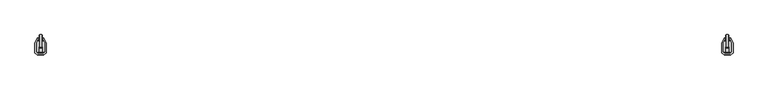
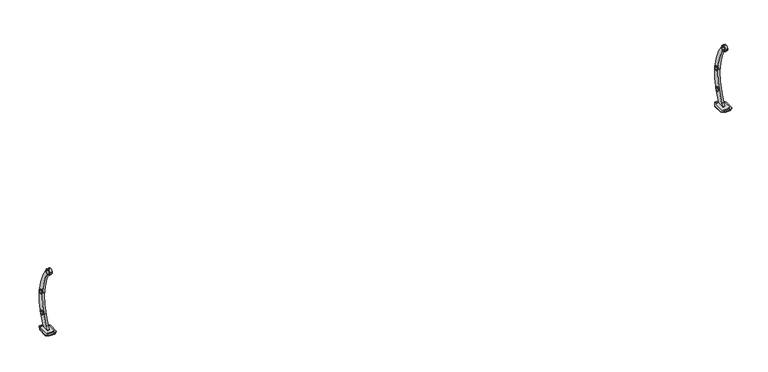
"""IFC4 building model written with IfcOpenShell, lengths in millimetres: railing geometry, Valla Luna-VVL02-1000mm."""

from ifc_helpers import new_model, si_unit, point, frame, frame_2d, origin, place, context, project, spatial, polyline, circle_curve, ellipse_curve, trimmed, segment, composite_curve, outline, extrude, source, transform, mapped, element, save
from ifc_brep_helpers import plane_surface, cylinder_surface, advanced_brep


def railing_3021f9ca(model_context):
    return source(origin(), model_context, "Body", "SolidModel", [
        advanced_brep(
        [(37.8257176, -59.8778291, 14.203599), (37.8257176, 76.8213068, 14.203599), (37.8257176, 76.8213068, 20.5949777), (37.8257176, -59.8778291, 20.5949777), (-78.1742824, -59.8778291, 20.5949777), (-78.1742824, 76.8213068, 20.5949777), (-78.1742824, 76.8213068, 14.203599), (-78.1742824, -59.8778291, 14.203599), (19.6479857, -75.1307572, 16.3372695), (-59.9965506, -75.1307572, 16.3372695), (-59.9965506, -75.1307572, 14.203599), (19.6479857, -75.1307572, 14.203599), (-58.4734613, 112.362529, 14.203599), (18.1248964, 112.362529, 14.203599), (-58.4734613, 112.362529, 16.3372695), (18.1248964, 112.362529, 16.3372695), (-60.8335475, 108.1048208, 20.5949777), (20.4849826, 108.1048208, 20.5949777), (-65.0706896, -70.873049, 20.5949777), (24.7221248, -70.873049, 20.5949777)],
        [
            (0, 1),
            (1, 2),
            (2, 3),
            (3, 0),
            (4, 5),
            (5, 6),
            (6, 7),
            (7, 4),
            (8, 9),
            (9, 10),
            (10, 11),
            (11, 8),
            (0, 11),
            (10, 7),
            (6, 12),
            (12, 13),
            (13, 1),
            (12, 14),
            (14, 15),
            (15, 13),
            (14, 16, ellipse_curve(frame((-60.8335475, 108.1048208, 16.3372695), z_axis=(0.874619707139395, -0.4848096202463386, 0.0), x_axis=(0.4848096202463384, 0.8746197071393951, 0.0)), 4.868068, 4.2577082)),
            (16, 17),
            (17, 15, ellipse_curve(frame((20.4849826, 108.1048208, 16.3372695), z_axis=(-0.8746197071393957, -0.4848096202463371, 0.0), x_axis=(0.4848096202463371, -0.8746197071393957, 0.0)), 4.868068, 4.2577082)),
            (2, 17),
            (16, 5),
            (4, 18),
            (18, 19),
            (19, 3),
            (8, 19, ellipse_curve(frame((24.7221248, -70.873049, 16.3372695), z_axis=(-0.6427876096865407, 0.766044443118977, 0.0), x_axis=(0.7660444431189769, 0.6427876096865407, 0.0)), 6.6238181, 4.2577082)),
            (18, 9, ellipse_curve(frame((-65.0706896, -70.873049, 16.3372695), z_axis=(0.6427876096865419, 0.7660444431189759, 0.0), x_axis=(0.7660444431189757, -0.6427876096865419, 0.0)), 6.6238181, 4.2577082)),
        ],
        [
            plane_surface(frame((37.8257176, -75.1307572, 14.203599), z_axis=(1.0, 0.0, 0.0), x_axis=(0.0, 0.0, -1.0))),
            plane_surface(frame((-78.1742824, -75.1307572, 14.203599), z_axis=(-1.0, 0.0, 0.0), x_axis=(0.0, 0.0, 1.0))),
            plane_surface(frame((37.8257176, -75.1307572, 16.3372695), z_axis=(0.0, -1.0, 0.0), x_axis=(-1.0, 0.0, 0.0))),
            plane_surface(frame((37.8257176, -75.1307572, 14.203599), z_axis=(0.0, 0.0, -1.0), x_axis=(-1.0, 0.0, 0.0))),
            plane_surface(frame((37.8257176, 112.362529, 14.203599), z_axis=(0.0, 1.0, 0.0), x_axis=(-1.0, 0.0, 0.0))),
            cylinder_surface(frame((-78.1742824, 108.1048208, 16.3372695), z_axis=(1.0, 0.0, 0.0), x_axis=(0.0, 1.0, 0.0)), 4.2577082),
            plane_surface(frame((37.8257176, 108.1048208, 20.5949777), z_axis=(0.0, 0.0, 1.0), x_axis=(-1.0, 0.0, 0.0))),
            cylinder_surface(frame((-78.1742824, -70.873049, 16.3372695), z_axis=(1.0, 0.0, 0.0), x_axis=(0.0, 1.0, 0.0)), 4.2577082),
            plane_surface(frame((-78.1742824, 76.8213068, 26.9863564), z_axis=(-0.874619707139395, 0.4848096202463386, 0.0), x_axis=(0.0, 0.0, -1.0))),
            plane_surface(frame((18.1248964, 112.362529, 26.9863564), z_axis=(0.8746197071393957, 0.4848096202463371, 0.0), x_axis=(0.0, 0.0, -1.0))),
            plane_surface(frame((37.8257176, -59.8778291, 26.9863564), z_axis=(0.6427876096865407, -0.766044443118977, 0.0), x_axis=(0.0, 0.0, -1.0))),
            plane_surface(frame((-59.9965506, -75.1307572, 26.9863564), z_axis=(-0.6427876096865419, -0.7660444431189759, 0.0), x_axis=(0.0, 0.0, -1.0))),
        ],
        [
            (0, [[1, 2, 3, 4]]),
            (1, [[5, 6, 7, 8]]),
            (2, [[9, 10, 11, 12]]),
            (3, [[-1, 13, -11, 14, -7, 15, 16, 17]]),
            (4, [[-16, 18, 19, 20]]),
            (5, [[-19, 21, 22, 23]]),
            (6, [[-3, 24, -22, 25, -5, 26, 27, 28]]),
            (7, [[-9, 29, -27, 30]]),
            (8, [[-6, -25, -21, -18, -15]]),
            (9, [[-2, -17, -20, -23, -24]]),
            (10, [[-4, -28, -29, -12, -13]]),
            (11, [[-8, -14, -10, -30, -26]]),
        ],
    ),
        advanced_brep(
        [(61.8257176, 73.6162264, 14.203599), (61.8257176, -73.8212018, 14.203599), (61.8257176, -73.8212018, 0.0), (61.8257176, 73.6162264, 0.0), (-102.1742824, 73.6162264, 0.0), (-102.1742824, -73.8212018, 0.0), (-102.1742824, -73.8212018, 14.203599), (-102.1742824, 73.6162264, 14.203599), (23.024084, 143.6162264, 0.0), (-63.3726488, 143.6162264, 0.0), (-63.3726488, 143.6162264, 9.9410744), (23.024084, 143.6162264, 9.9410744), (-65.7354048, 139.3537018, 14.203599), (25.3868399, 139.3537018, 14.203599), (-68.4525278, -102.1171136, 14.203599), (28.103963, -102.1171136, 14.203599), (-63.3726488, -106.3796382, 9.9410744), (23.024084, -106.3796382, 9.9410744), (-63.3726488, -106.3796382, 0.0), (23.024084, -106.3796382, 0.0)],
        [
            (0, 1),
            (1, 2),
            (2, 3),
            (3, 0),
            (4, 5),
            (5, 6),
            (6, 7),
            (7, 4),
            (8, 9),
            (9, 10),
            (10, 11),
            (11, 8),
            (10, 12, ellipse_curve(frame((-65.7354048, 139.3537018, 9.9410744), z_axis=(0.874619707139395, -0.4848096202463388, 0.0), x_axis=(0.4848096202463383, 0.8746197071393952, 0.0)), 4.8735749, 4.2625246)),
            (12, 13),
            (13, 11, ellipse_curve(frame((25.3868399, 139.3537018, 9.9410744), z_axis=(-0.8746197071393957, -0.4848096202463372, 0.0), x_axis=(0.4848096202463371, -0.8746197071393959, 0.0)), 4.8735749, 4.2625246)),
            (0, 13),
            (12, 7),
            (6, 14),
            (14, 15),
            (15, 1),
            (14, 16, ellipse_curve(frame((-68.4525278, -102.1171136, 9.9410744), z_axis=(0.6427876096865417, 0.766044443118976, 0.0), x_axis=(0.766044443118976, -0.6427876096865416, 0.0)), 6.6313111, 4.2625246)),
            (16, 17),
            (17, 15, ellipse_curve(frame((28.103963, -102.1171136, 9.9410744), z_axis=(-0.6427876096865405, 0.7660444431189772, 0.0), x_axis=(0.766044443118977, 0.6427876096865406, 0.0)), 6.6313111, 4.2625246)),
            (16, 18),
            (18, 19),
            (19, 17),
            (2, 19),
            (18, 5),
            (4, 9),
            (8, 3),
        ],
        [
            plane_surface(frame((61.8257176, 143.6162264, 9.9410744), z_axis=(1.0, 0.0, 0.0), x_axis=(0.0, 0.0, 1.0))),
            plane_surface(frame((-102.1742824, 143.6162264, 9.9410744), z_axis=(-1.0, 0.0, 0.0), x_axis=(0.0, 0.0, -1.0))),
            plane_surface(frame((61.8257176, 143.6162264, 0.0), z_axis=(0.0, 1.0, 0.0), x_axis=(-1.0, 0.0, 0.0))),
            cylinder_surface(frame((-102.1742824, 139.3537018, 9.9410744), z_axis=(1.0, 0.0, 0.0), x_axis=(0.0, 1.0, 0.0)), 4.2625246),
            plane_surface(frame((61.8257176, 139.3537018, 14.203599), z_axis=(0.0, 0.0, 1.0), x_axis=(-1.0, 0.0, 0.0))),
            cylinder_surface(frame((-102.1742824, -102.1171136, 9.9410744), z_axis=(1.0, 0.0, 0.0), x_axis=(0.0, 1.0, 0.0)), 4.2625246),
            plane_surface(frame((61.8257176, -106.3796382, 9.9410744), z_axis=(0.0, -1.0, 0.0), x_axis=(-1.0, 0.0, 0.0))),
            plane_surface(frame((61.8257176, -106.3796382, 0.0), z_axis=(0.0, 0.0, -1.0), x_axis=(-1.0, 0.0, 0.0))),
            plane_surface(frame((-102.1742824, 73.6162264, 56.1063833), z_axis=(-0.874619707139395, 0.4848096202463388, 0.0), x_axis=(0.0, 0.0, -1.0))),
            plane_surface(frame((23.024084, 143.6162264, 56.1063833), z_axis=(0.8746197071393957, 0.4848096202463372, 0.0), x_axis=(0.0, 0.0, -1.0))),
            plane_surface(frame((-63.3726488, -106.3796382, 56.1063833), z_axis=(-0.6427876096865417, -0.766044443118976, 0.0), x_axis=(0.0, 0.0, -1.0))),
            plane_surface(frame((61.8257176, -73.8212018, 56.1063833), z_axis=(0.6427876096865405, -0.7660444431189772, 0.0), x_axis=(0.0, 0.0, -1.0))),
        ],
        [
            (0, [[1, 2, 3, 4]]),
            (1, [[5, 6, 7, 8]]),
            (2, [[9, 10, 11, 12]]),
            (3, [[-11, 13, 14, 15]]),
            (4, [[-1, 16, -14, 17, -7, 18, 19, 20]]),
            (5, [[-19, 21, 22, 23]]),
            (6, [[-22, 24, 25, 26]]),
            (7, [[-3, 27, -25, 28, -5, 29, -9, 30]]),
            (8, [[-8, -17, -13, -10, -29]]),
            (9, [[-4, -30, -12, -15, -16]]),
            (10, [[-6, -28, -24, -21, -18]]),
            (11, [[-2, -20, -23, -26, -27]]),
        ],
    ),
        extrude(outline(composite_curve([segment(trimmed(circle_curve(frame_2d((-32.5175521, 952.3924915)), 42.6132051), [point((-75.1307572, 952.3924915))], [point((10.0956531, 952.3924915))], False, "CARTESIAN"), True, "CONTINUOUS"), segment(trimmed(circle_curve(frame_2d((-32.5175521, 952.3924915)), 42.6132051), [point((10.0956531, 952.3924915))], [point((-75.1307572, 952.3924915))], False, "CARTESIAN"), True, "CONTINUOUS")], self_intersect=False), holes=[composite_curve([segment(trimmed(circle_curve(frame_2d((-32.5175521, 952.3924915)), 28.4096062), [point((-60.9271582, 952.3924915))], [point((-4.1079459, 952.3924915))], True, "CARTESIAN"), True, "CONTINUOUS"), segment(trimmed(circle_curve(frame_2d((-32.5175521, 952.3924915)), 28.4096062), [point((-4.1079459, 952.3924915))], [point((-60.9271582, 952.3924915))], True, "CARTESIAN"), True, "CONTINUOUS")], self_intersect=False)]), frame((-41.7542824, 0.0, 0.0), z_axis=(1.0, 0.0, 0.0), x_axis=(0.0, 1.0, 0.0)), (0.0, 0.0, 1.0), 43.16),
        extrude(outline(composite_curve([segment(trimmed(circle_curve(frame_2d((-35.2003219, 907.5222066)), 2.3654817), [point((-35.415134, 909.8779144))], [point((-37.4829394, 908.1428196))], True, "CARTESIAN"), True, "CONTINUOUS"), segment(polyline([(-37.4829394, 908.1428196), (-38.2257606, 905.4107199)]), True, "CONTINUOUS"), segment(trimmed(circle_curve(frame_2d((-40.4091972, 906.4191341)), 2.4050561), [point((-38.2257606, 905.4107199))], [point((-41.0401931, 904.0983285))], False, "CARTESIAN"), True, "CONTINUOUS"), segment(polyline([(-41.0401931, 904.0983285), (-48.8524133, 906.2223662)]), True, "CONTINUOUS"), segment(trimmed(circle_curve(frame_2d((-48.2214175, 908.5431718)), 2.4050561), [point((-48.8524133, 906.2223662))], [point((-50.6148686, 908.7791518))], False, "CARTESIAN"), True, "CONTINUOUS"), segment(polyline([(-50.6148686, 908.7791518), (-49.8720473, 911.5112516)]), True, "CONTINUOUS"), segment(trimmed(circle_curve(frame_2d((-52.1546649, 912.1318646)), 2.3654817), [point((-49.8720473, 911.5112516))], [point((-50.3918957, 913.7092511))], True, "CARTESIAN"), True, "CONTINUOUS"), segment(trimmed(circle_curve(frame_2d((-32.5175521, 952.3924915)), 42.6132051), [point((-50.3918957, 913.7092511))], [point((-35.415134, 909.8779144))], True, "CARTESIAN"), True, "CONTINUOUS")], self_intersect=False)), frame((-26.3942824, 0.0, 0.0), z_axis=(1.0, 0.0, 0.0), x_axis=(0.0, 1.0, 0.0)), (0.0, 0.0, 1.0), 12.4397),
        extrude(outline(composite_curve([segment(trimmed(circle_curve(frame_2d((151.7824529, 535.4983185)), 33.0237288), [point((118.7587241, 535.4983185))], [point((184.8061818, 535.4983185))], False, "CARTESIAN"), True, "CONTINUOUS"), segment(trimmed(circle_curve(frame_2d((151.7824529, 535.4983185)), 33.0237288), [point((184.8061818, 535.4983185))], [point((118.7587241, 535.4983185))], False, "CARTESIAN"), True, "CONTINUOUS")], self_intersect=False), holes=[composite_curve([segment(trimmed(circle_curve(frame_2d((151.7824529, 535.4983185)), 18.8201299), [point((132.9623231, 535.4983185))], [point((170.6025828, 535.4983185))], True, "CARTESIAN"), True, "CONTINUOUS"), segment(trimmed(circle_curve(frame_2d((151.7824529, 535.4983185)), 18.8201299), [point((170.6025828, 535.4983185))], [point((132.9623231, 535.4983185))], True, "CARTESIAN"), True, "CONTINUOUS")], self_intersect=False)]), frame((-41.7542824, 0.0, 0.0), z_axis=(1.0, 0.0, 0.0), x_axis=(0.0, 1.0, 0.0)), (0.0, 0.0, 1.0), 43.16),
        extrude(outline(composite_curve([segment(trimmed(circle_curve(frame_2d((124.7936883, 223.0046918)), 33.0237288), [point((91.7699595, 223.0046918))], [point((157.8174172, 223.0046918))], False, "CARTESIAN"), True, "CONTINUOUS"), segment(trimmed(circle_curve(frame_2d((124.7936883, 223.0046918)), 33.0237288), [point((157.8174172, 223.0046918))], [point((91.7699595, 223.0046918))], False, "CARTESIAN"), True, "CONTINUOUS")], self_intersect=False), holes=[composite_curve([segment(trimmed(circle_curve(frame_2d((124.7936883, 223.0046918)), 18.8201299), [point((105.9735585, 223.0046918))], [point((143.6138182, 223.0046918))], True, "CARTESIAN"), True, "CONTINUOUS"), segment(trimmed(circle_curve(frame_2d((124.7936883, 223.0046918)), 18.8201299), [point((143.6138182, 223.0046918))], [point((105.9735585, 223.0046918))], True, "CARTESIAN"), True, "CONTINUOUS")], self_intersect=False)]), frame((-41.7542824, 0.0, 0.0), z_axis=(1.0, 0.0, 0.0), x_axis=(0.0, 1.0, 0.0)), (0.0, 0.0, 1.0), 43.16),
        extrude(outline(composite_curve([segment(trimmed(circle_curve(frame_2d((-32.5175521, 951.7927114)), 42.6132051), [point((-19.2244118, 911.3059521))], [point((0.6146997, 978.5908296))], False, "CARTESIAN"), True, "CONTINUOUS"), segment(trimmed(circle_curve(frame_2d((-669.8242293, 431.6687279)), 865.2237531), [point((0.6146997, 978.5908296))], [point((94.6092344, 26.3865762))], False, "CARTESIAN"), True, "CONTINUOUS"), segment(trimmed(circle_curve(frame_2d((99.8588247, 25.1220185)), 5.3997504), [point((94.6092344, 26.3865762))], [point((98.1493714, 20.0))], True, "CARTESIAN"), True, "CONTINUOUS"), segment(polyline([(98.1493714, 20.0), (-18.2389933, 20.0)]), True, "CONTINUOUS"), segment(trimmed(circle_curve(frame_2d((-18.9534231, 30.8838265)), 10.9072494), [point((-18.2389933, 20.0))], [point((-9.7913121, 24.9657347))], True, "CARTESIAN"), True, "CONTINUOUS"), segment(trimmed(circle_curve(frame_2d((-548.3550434, 372.840762)), 641.1457926), [point((-9.7913121, 24.9657347))], [point((15.0710067, 66.868519))], True, "CARTESIAN"), True, "CONTINUOUS"), segment(trimmed(circle_curve(frame_2d((-721.6327305, 466.940356)), 838.3256355), [point((15.0710067, 66.868519))], [point((-7.3307436, 905.7598436))], True, "CARTESIAN"), True, "CONTINUOUS"), segment(trimmed(circle_curve(frame_2d((-16.9904255, 900.5706701)), 10.9652622), [point((-7.3307436, 905.7598436))], [point((-19.2244118, 911.3059521))], True, "CARTESIAN"), True, "CONTINUOUS")], self_intersect=False), holes=[composite_curve([segment(trimmed(circle_curve(frame_2d((-32.5175521, 951.7927114)), 28.4096062), [point((-60.9271582, 951.7927114))], [point((-4.1079459, 951.7927114))], True, "CARTESIAN"), True, "CONTINUOUS"), segment(trimmed(circle_curve(frame_2d((-32.5175521, 951.7927114)), 28.4096062), [point((-4.1079459, 951.7927114))], [point((-60.9271582, 951.7927114))], True, "CARTESIAN"), True, "CONTINUOUS")], self_intersect=False), composite_curve([segment(trimmed(circle_curve(frame_2d((151.7824529, 534.8985383)), 18.8201299), [point((132.9623231, 534.8985383))], [point((170.6025828, 534.8985383))], True, "CARTESIAN"), True, "CONTINUOUS"), segment(trimmed(circle_curve(frame_2d((151.7824529, 534.8985383)), 18.8201299), [point((170.6025828, 534.8985383))], [point((132.9623231, 534.8985383))], True, "CARTESIAN"), True, "CONTINUOUS")], self_intersect=False), composite_curve([segment(trimmed(circle_curve(frame_2d((124.7936883, 222.4049116)), 18.8201299), [point((105.9735585, 222.4049116))], [point((143.6138182, 222.4049116))], True, "CARTESIAN"), True, "CONTINUOUS"), segment(trimmed(circle_curve(frame_2d((124.7936883, 222.4049116)), 18.8201299), [point((143.6138182, 222.4049116))], [point((105.9735585, 222.4049116))], True, "CARTESIAN"), True, "CONTINUOUS")], self_intersect=False)]), frame((-35.1742824, 0.0, 0.0), z_axis=(1.0, 0.0, 0.0), x_axis=(0.0, 1.0, 0.0)), (0.0, 0.0, 1.0), 30.0),
        advanced_brep(
        [(-9962.1742824, -59.8778291, 14.203599), (-9962.1742824, 76.8213068, 14.203599), (-9962.1742824, 76.8213068, 20.5949777), (-9962.1742824, -59.8778291, 20.5949777), (-10078.1742824, -59.8778291, 20.5949777), (-10078.1742824, 76.8213068, 20.5949777), (-10078.1742824, 76.8213068, 14.203599), (-10078.1742824, -59.8778291, 14.203599), (-9980.3520143, -75.1307572, 16.3372695), (-10059.9965506, -75.1307572, 16.3372695), (-10059.9965506, -75.1307572, 14.203599), (-9980.3520143, -75.1307572, 14.203599), (-10058.4734613, 112.362529, 14.203599), (-9981.8751036, 112.362529, 14.203599), (-10058.4734613, 112.362529, 16.3372695), (-9981.8751036, 112.362529, 16.3372695), (-10060.8335475, 108.1048208, 20.5949777), (-9979.5150174, 108.1048208, 20.5949777), (-10065.0706896, -70.873049, 20.5949777), (-9975.2778752, -70.873049, 20.5949777)],
        [
            (0, 1),
            (1, 2),
            (2, 3),
            (3, 0),
            (4, 5),
            (5, 6),
            (6, 7),
            (7, 4),
            (8, 9),
            (9, 10),
            (10, 11),
            (11, 8),
            (0, 11),
            (10, 7),
            (6, 12),
            (12, 13),
            (13, 1),
            (12, 14),
            (14, 15),
            (15, 13),
            (14, 16, ellipse_curve(frame((-10060.8335475, 108.1048208, 16.3372695), z_axis=(0.874619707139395, -0.4848096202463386, 0.0), x_axis=(0.4848096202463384, 0.8746197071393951, 0.0)), 4.868068, 4.2577082)),
            (16, 17),
            (17, 15, ellipse_curve(frame((-9979.5150174, 108.1048208, 16.3372695), z_axis=(-0.8746197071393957, -0.4848096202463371, 0.0), x_axis=(0.4848096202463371, -0.8746197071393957, 0.0)), 4.868068, 4.2577082)),
            (2, 17),
            (16, 5),
            (4, 18),
            (18, 19),
            (19, 3),
            (8, 19, ellipse_curve(frame((-9975.2778752, -70.873049, 16.3372695), z_axis=(-0.6427876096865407, 0.766044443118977, 0.0), x_axis=(0.7660444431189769, 0.6427876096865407, 0.0)), 6.6238181, 4.2577082)),
            (18, 9, ellipse_curve(frame((-10065.0706896, -70.873049, 16.3372695), z_axis=(0.6427876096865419, 0.7660444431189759, 0.0), x_axis=(0.7660444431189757, -0.6427876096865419, 0.0)), 6.6238181, 4.2577082)),
        ],
        [
            plane_surface(frame((-9962.1742824, -75.1307572, 14.203599), z_axis=(1.0, 0.0, 0.0), x_axis=(0.0, 0.0, -1.0))),
            plane_surface(frame((-10078.1742824, -75.1307572, 14.203599), z_axis=(-1.0, 0.0, 0.0), x_axis=(0.0, 0.0, 1.0))),
            plane_surface(frame((-9962.1742824, -75.1307572, 16.3372695), z_axis=(0.0, -1.0, 0.0), x_axis=(-1.0, 0.0, 0.0))),
            plane_surface(frame((-9962.1742824, -75.1307572, 14.203599), z_axis=(0.0, 0.0, -1.0), x_axis=(-1.0, 0.0, 0.0))),
            plane_surface(frame((-9962.1742824, 112.362529, 14.203599), z_axis=(0.0, 1.0, 0.0), x_axis=(-1.0, 0.0, 0.0))),
            cylinder_surface(frame((-10078.1742824, 108.1048208, 16.3372695), z_axis=(1.0, 0.0, 0.0), x_axis=(0.0, 1.0, 0.0)), 4.2577082),
            plane_surface(frame((-9962.1742824, 108.1048208, 20.5949777), z_axis=(0.0, 0.0, 1.0), x_axis=(-1.0, 0.0, 0.0))),
            cylinder_surface(frame((-10078.1742824, -70.873049, 16.3372695), z_axis=(1.0, 0.0, 0.0), x_axis=(0.0, 1.0, 0.0)), 4.2577082),
            plane_surface(frame((-10078.1742824, 76.8213068, 26.9863564), z_axis=(-0.874619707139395, 0.4848096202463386, 0.0), x_axis=(0.0, 0.0, -1.0))),
            plane_surface(frame((-9981.8751036, 112.362529, 26.9863564), z_axis=(0.8746197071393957, 0.4848096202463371, 0.0), x_axis=(0.0, 0.0, -1.0))),
            plane_surface(frame((-9962.1742824, -59.8778291, 26.9863564), z_axis=(0.6427876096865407, -0.766044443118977, 0.0), x_axis=(0.0, 0.0, -1.0))),
            plane_surface(frame((-10059.9965506, -75.1307572, 26.9863564), z_axis=(-0.6427876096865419, -0.7660444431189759, 0.0), x_axis=(0.0, 0.0, -1.0))),
        ],
        [
            (0, [[1, 2, 3, 4]]),
            (1, [[5, 6, 7, 8]]),
            (2, [[9, 10, 11, 12]]),
            (3, [[-1, 13, -11, 14, -7, 15, 16, 17]]),
            (4, [[-16, 18, 19, 20]]),
            (5, [[-19, 21, 22, 23]]),
            (6, [[-3, 24, -22, 25, -5, 26, 27, 28]]),
            (7, [[-9, 29, -27, 30]]),
            (8, [[-6, -25, -21, -18, -15]]),
            (9, [[-2, -17, -20, -23, -24]]),
            (10, [[-4, -28, -29, -12, -13]]),
            (11, [[-8, -14, -10, -30, -26]]),
        ],
    ),
        advanced_brep(
        [(-9938.1742824, 73.6162264, 14.203599), (-9938.1742824, -73.8212018, 14.203599), (-9938.1742824, -73.8212018, 0.0), (-9938.1742824, 73.6162264, 0.0), (-10102.1742824, 73.6162264, 0.0), (-10102.1742824, -73.8212018, 0.0), (-10102.1742824, -73.8212018, 14.203599), (-10102.1742824, 73.6162264, 14.203599), (-9976.975916, 143.6162264, 0.0), (-10063.3726488, 143.6162264, 0.0), (-10063.3726488, 143.6162264, 9.9410744), (-9976.975916, 143.6162264, 9.9410744), (-10065.7354048, 139.3537018, 14.203599), (-9974.6131601, 139.3537018, 14.203599), (-10068.4525278, -102.1171136, 14.203599), (-9971.896037, -102.1171136, 14.203599), (-10063.3726488, -106.3796382, 9.9410744), (-9976.975916, -106.3796382, 9.9410744), (-10063.3726488, -106.3796382, 0.0), (-9976.975916, -106.3796382, 0.0)],
        [
            (0, 1),
            (1, 2),
            (2, 3),
            (3, 0),
            (4, 5),
            (5, 6),
            (6, 7),
            (7, 4),
            (8, 9),
            (9, 10),
            (10, 11),
            (11, 8),
            (10, 12, ellipse_curve(frame((-10065.7354048, 139.3537018, 9.9410744), z_axis=(0.874619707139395, -0.4848096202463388, 0.0), x_axis=(0.4848096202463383, 0.8746197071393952, 0.0)), 4.8735749, 4.2625246)),
            (12, 13),
            (13, 11, ellipse_curve(frame((-9974.6131601, 139.3537018, 9.9410744), z_axis=(-0.8746197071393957, -0.4848096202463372, 0.0), x_axis=(0.4848096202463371, -0.8746197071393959, 0.0)), 4.8735749, 4.2625246)),
            (0, 13),
            (12, 7),
            (6, 14),
            (14, 15),
            (15, 1),
            (14, 16, ellipse_curve(frame((-10068.4525278, -102.1171136, 9.9410744), z_axis=(0.6427876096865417, 0.766044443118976, 0.0), x_axis=(0.766044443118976, -0.6427876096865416, 0.0)), 6.6313111, 4.2625246)),
            (16, 17),
            (17, 15, ellipse_curve(frame((-9971.896037, -102.1171136, 9.9410744), z_axis=(-0.6427876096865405, 0.7660444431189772, 0.0), x_axis=(0.766044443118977, 0.6427876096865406, 0.0)), 6.6313111, 4.2625246)),
            (16, 18),
            (18, 19),
            (19, 17),
            (2, 19),
            (18, 5),
            (4, 9),
            (8, 3),
        ],
        [
            plane_surface(frame((-9938.1742824, 143.6162264, 9.9410744), z_axis=(1.0, 0.0, 0.0), x_axis=(0.0, 0.0, 1.0))),
            plane_surface(frame((-10102.1742824, 143.6162264, 9.9410744), z_axis=(-1.0, 0.0, 0.0), x_axis=(0.0, 0.0, -1.0))),
            plane_surface(frame((-9938.1742824, 143.6162264, 0.0), z_axis=(0.0, 1.0, 0.0), x_axis=(-1.0, 0.0, 0.0))),
            cylinder_surface(frame((-10102.1742824, 139.3537018, 9.9410744), z_axis=(1.0, 0.0, 0.0), x_axis=(0.0, 1.0, 0.0)), 4.2625246),
            plane_surface(frame((-9938.1742824, 139.3537018, 14.203599), z_axis=(0.0, 0.0, 1.0), x_axis=(-1.0, 0.0, 0.0))),
            cylinder_surface(frame((-10102.1742824, -102.1171136, 9.9410744), z_axis=(1.0, 0.0, 0.0), x_axis=(0.0, 1.0, 0.0)), 4.2625246),
            plane_surface(frame((-9938.1742824, -106.3796382, 9.9410744), z_axis=(0.0, -1.0, 0.0), x_axis=(-1.0, 0.0, 0.0))),
            plane_surface(frame((-9938.1742824, -106.3796382, 0.0), z_axis=(0.0, 0.0, -1.0), x_axis=(-1.0, 0.0, 0.0))),
            plane_surface(frame((-10102.1742824, 73.6162264, 56.1063833), z_axis=(-0.874619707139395, 0.4848096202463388, 0.0), x_axis=(0.0, 0.0, -1.0))),
            plane_surface(frame((-9976.975916, 143.6162264, 56.1063833), z_axis=(0.8746197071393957, 0.4848096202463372, 0.0), x_axis=(0.0, 0.0, -1.0))),
            plane_surface(frame((-10063.3726488, -106.3796382, 56.1063833), z_axis=(-0.6427876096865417, -0.766044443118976, 0.0), x_axis=(0.0, 0.0, -1.0))),
            plane_surface(frame((-9938.1742824, -73.8212018, 56.1063833), z_axis=(0.6427876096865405, -0.7660444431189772, 0.0), x_axis=(0.0, 0.0, -1.0))),
        ],
        [
            (0, [[1, 2, 3, 4]]),
            (1, [[5, 6, 7, 8]]),
            (2, [[9, 10, 11, 12]]),
            (3, [[-11, 13, 14, 15]]),
            (4, [[-1, 16, -14, 17, -7, 18, 19, 20]]),
            (5, [[-19, 21, 22, 23]]),
            (6, [[-22, 24, 25, 26]]),
            (7, [[-3, 27, -25, 28, -5, 29, -9, 30]]),
            (8, [[-8, -17, -13, -10, -29]]),
            (9, [[-4, -30, -12, -15, -16]]),
            (10, [[-6, -28, -24, -21, -18]]),
            (11, [[-2, -20, -23, -26, -27]]),
        ],
    ),
        extrude(outline(composite_curve([segment(trimmed(circle_curve(frame_2d((-32.5175521, 952.3924915)), 42.6132051), [point((-75.1307572, 952.3924915))], [point((10.0956531, 952.3924915))], False, "CARTESIAN"), True, "CONTINUOUS"), segment(trimmed(circle_curve(frame_2d((-32.5175521, 952.3924915)), 42.6132051), [point((10.0956531, 952.3924915))], [point((-75.1307572, 952.3924915))], False, "CARTESIAN"), True, "CONTINUOUS")], self_intersect=False), holes=[composite_curve([segment(trimmed(circle_curve(frame_2d((-32.5175521, 952.3924915)), 28.4096062), [point((-60.9271582, 952.3924915))], [point((-4.1079459, 952.3924915))], True, "CARTESIAN"), True, "CONTINUOUS"), segment(trimmed(circle_curve(frame_2d((-32.5175521, 952.3924915)), 28.4096062), [point((-4.1079459, 952.3924915))], [point((-60.9271582, 952.3924915))], True, "CARTESIAN"), True, "CONTINUOUS")], self_intersect=False)]), frame((-10041.7542824, 0.0, 0.0), z_axis=(1.0, 0.0, 0.0), x_axis=(0.0, 1.0, 0.0)), (0.0, 0.0, 1.0), 43.16),
        extrude(outline(composite_curve([segment(trimmed(circle_curve(frame_2d((-35.2003219, 907.5222066)), 2.3654817), [point((-35.415134, 909.8779144))], [point((-37.4829394, 908.1428196))], True, "CARTESIAN"), True, "CONTINUOUS"), segment(polyline([(-37.4829394, 908.1428196), (-38.2257606, 905.4107199)]), True, "CONTINUOUS"), segment(trimmed(circle_curve(frame_2d((-40.4091972, 906.4191341)), 2.4050561), [point((-38.2257606, 905.4107199))], [point((-41.0401931, 904.0983285))], False, "CARTESIAN"), True, "CONTINUOUS"), segment(polyline([(-41.0401931, 904.0983285), (-48.8524133, 906.2223662)]), True, "CONTINUOUS"), segment(trimmed(circle_curve(frame_2d((-48.2214175, 908.5431718)), 2.4050561), [point((-48.8524133, 906.2223662))], [point((-50.6148686, 908.7791518))], False, "CARTESIAN"), True, "CONTINUOUS"), segment(polyline([(-50.6148686, 908.7791518), (-49.8720473, 911.5112516)]), True, "CONTINUOUS"), segment(trimmed(circle_curve(frame_2d((-52.1546649, 912.1318646)), 2.3654817), [point((-49.8720473, 911.5112516))], [point((-50.3918957, 913.7092511))], True, "CARTESIAN"), True, "CONTINUOUS"), segment(trimmed(circle_curve(frame_2d((-32.5175521, 952.3924915)), 42.6132051), [point((-50.3918957, 913.7092511))], [point((-35.415134, 909.8779144))], True, "CARTESIAN"), True, "CONTINUOUS")], self_intersect=False)), frame((-10026.3942824, 0.0, 0.0), z_axis=(1.0, 0.0, 0.0), x_axis=(0.0, 1.0, 0.0)), (0.0, 0.0, 1.0), 12.4397),
        extrude(outline(composite_curve([segment(trimmed(circle_curve(frame_2d((151.7824529, 535.4983185)), 33.0237288), [point((118.7587241, 535.4983185))], [point((184.8061818, 535.4983185))], False, "CARTESIAN"), True, "CONTINUOUS"), segment(trimmed(circle_curve(frame_2d((151.7824529, 535.4983185)), 33.0237288), [point((184.8061818, 535.4983185))], [point((118.7587241, 535.4983185))], False, "CARTESIAN"), True, "CONTINUOUS")], self_intersect=False), holes=[composite_curve([segment(trimmed(circle_curve(frame_2d((151.7824529, 535.4983185)), 18.8201299), [point((132.9623231, 535.4983185))], [point((170.6025828, 535.4983185))], True, "CARTESIAN"), True, "CONTINUOUS"), segment(trimmed(circle_curve(frame_2d((151.7824529, 535.4983185)), 18.8201299), [point((170.6025828, 535.4983185))], [point((132.9623231, 535.4983185))], True, "CARTESIAN"), True, "CONTINUOUS")], self_intersect=False)]), frame((-10041.7542824, 0.0, 0.0), z_axis=(1.0, 0.0, 0.0), x_axis=(0.0, 1.0, 0.0)), (0.0, 0.0, 1.0), 43.16),
        extrude(outline(composite_curve([segment(trimmed(circle_curve(frame_2d((124.7936883, 223.0046918)), 33.0237288), [point((91.7699595, 223.0046918))], [point((157.8174172, 223.0046918))], False, "CARTESIAN"), True, "CONTINUOUS"), segment(trimmed(circle_curve(frame_2d((124.7936883, 223.0046918)), 33.0237288), [point((157.8174172, 223.0046918))], [point((91.7699595, 223.0046918))], False, "CARTESIAN"), True, "CONTINUOUS")], self_intersect=False), holes=[composite_curve([segment(trimmed(circle_curve(frame_2d((124.7936883, 223.0046918)), 18.8201299), [point((105.9735585, 223.0046918))], [point((143.6138182, 223.0046918))], True, "CARTESIAN"), True, "CONTINUOUS"), segment(trimmed(circle_curve(frame_2d((124.7936883, 223.0046918)), 18.8201299), [point((143.6138182, 223.0046918))], [point((105.9735585, 223.0046918))], True, "CARTESIAN"), True, "CONTINUOUS")], self_intersect=False)]), frame((-10041.7542824, 0.0, 0.0), z_axis=(1.0, 0.0, 0.0), x_axis=(0.0, 1.0, 0.0)), (0.0, 0.0, 1.0), 43.16),
        extrude(outline(composite_curve([segment(trimmed(circle_curve(frame_2d((-32.5175521, 951.7927114)), 42.6132051), [point((-19.2244118, 911.3059521))], [point((0.6146997, 978.5908296))], False, "CARTESIAN"), True, "CONTINUOUS"), segment(trimmed(circle_curve(frame_2d((-669.8242293, 431.6687279)), 865.2237531), [point((0.6146997, 978.5908296))], [point((94.6092344, 26.3865762))], False, "CARTESIAN"), True, "CONTINUOUS"), segment(trimmed(circle_curve(frame_2d((99.8588247, 25.1220185)), 5.3997504), [point((94.6092344, 26.3865762))], [point((98.1493714, 20.0))], True, "CARTESIAN"), True, "CONTINUOUS"), segment(polyline([(98.1493714, 20.0), (-18.2389933, 20.0)]), True, "CONTINUOUS"), segment(trimmed(circle_curve(frame_2d((-18.9534231, 30.8838265)), 10.9072494), [point((-18.2389933, 20.0))], [point((-9.7913121, 24.9657347))], True, "CARTESIAN"), True, "CONTINUOUS"), segment(trimmed(circle_curve(frame_2d((-548.3550434, 372.840762)), 641.1457926), [point((-9.7913121, 24.9657347))], [point((15.0710067, 66.868519))], True, "CARTESIAN"), True, "CONTINUOUS"), segment(trimmed(circle_curve(frame_2d((-721.6327305, 466.940356)), 838.3256355), [point((15.0710067, 66.868519))], [point((-7.3307436, 905.7598436))], True, "CARTESIAN"), True, "CONTINUOUS"), segment(trimmed(circle_curve(frame_2d((-16.9904255, 900.5706701)), 10.9652622), [point((-7.3307436, 905.7598436))], [point((-19.2244118, 911.3059521))], True, "CARTESIAN"), True, "CONTINUOUS")], self_intersect=False), holes=[composite_curve([segment(trimmed(circle_curve(frame_2d((-32.5175521, 951.7927114)), 28.4096062), [point((-60.9271582, 951.7927114))], [point((-4.1079459, 951.7927114))], True, "CARTESIAN"), True, "CONTINUOUS"), segment(trimmed(circle_curve(frame_2d((-32.5175521, 951.7927114)), 28.4096062), [point((-4.1079459, 951.7927114))], [point((-60.9271582, 951.7927114))], True, "CARTESIAN"), True, "CONTINUOUS")], self_intersect=False), composite_curve([segment(trimmed(circle_curve(frame_2d((151.7824529, 534.8985383)), 18.8201299), [point((132.9623231, 534.8985383))], [point((170.6025828, 534.8985383))], True, "CARTESIAN"), True, "CONTINUOUS"), segment(trimmed(circle_curve(frame_2d((151.7824529, 534.8985383)), 18.8201299), [point((170.6025828, 534.8985383))], [point((132.9623231, 534.8985383))], True, "CARTESIAN"), True, "CONTINUOUS")], self_intersect=False), composite_curve([segment(trimmed(circle_curve(frame_2d((124.7936883, 222.4049116)), 18.8201299), [point((105.9735585, 222.4049116))], [point((143.6138182, 222.4049116))], True, "CARTESIAN"), True, "CONTINUOUS"), segment(trimmed(circle_curve(frame_2d((124.7936883, 222.4049116)), 18.8201299), [point((143.6138182, 222.4049116))], [point((105.9735585, 222.4049116))], True, "CARTESIAN"), True, "CONTINUOUS")], self_intersect=False)]), frame((-10035.1742824, 0.0, 0.0), z_axis=(1.0, 0.0, 0.0), x_axis=(0.0, 1.0, 0.0)), (0.0, 0.0, 1.0), 30.0),
    ])


if __name__ == "__main__":
    model = new_model("IFC4")
    model_context = context("Model", 3, world=origin())
    ifc_project = project(units=[si_unit("LENGTHUNIT", "METRE", prefix="MILLI")], contexts=[model_context])
    site = spatial("IfcSite", under=ifc_project)
    building = spatial("IfcBuilding", under=site)
    placement = place(None, origin())
    railing_shape = railing_3021f9ca(model_context)
    element("IfcRailing", 1, ObjectType="Valla Luna-VVL02-1000mm", at=placement, inside=building, context=model_context, shape_type="MappedRepresentation", body=[
        mapped(railing_shape, transform((0.0, 0.0, 0.0), x_axis=(1.0, 0.0, 0.0), y_axis=(0.0, 1.0, 0.0), z_axis=(0.0, 0.0, 1.0))),
    ])
    save(model, "model.ifc")
